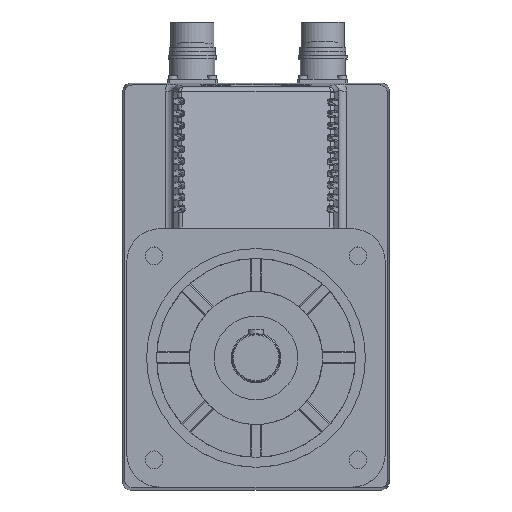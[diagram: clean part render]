
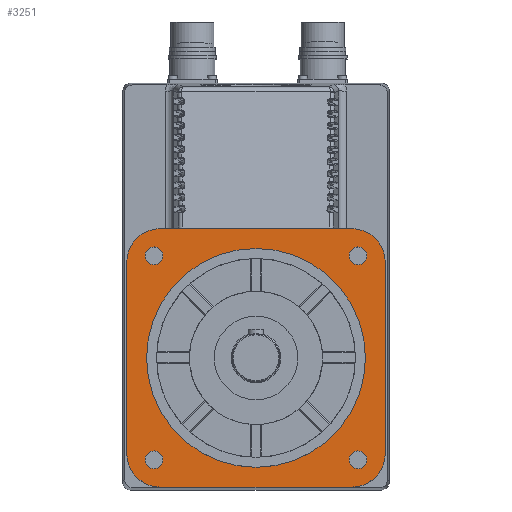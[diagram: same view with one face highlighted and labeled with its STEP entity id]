
A CAD part, top view. The second image highlights one B-rep face of the part: STEP entity #3251.
In plain terms, the highlighted planar face has unit normal (0, 0, 1).
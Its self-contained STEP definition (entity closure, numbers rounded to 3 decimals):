
#3251 = ADVANCED_FACE( '', ( #9575, #9576, #9577, #9578, #9579, #9580 ), #9581, .F. );
#9575 = FACE_OUTER_BOUND( '', #19198, .T. );
#9576 = FACE_BOUND( '', #19199, .T. );
#9577 = FACE_BOUND( '', #19200, .T. );
#9578 = FACE_BOUND( '', #19201, .T. );
#9579 = FACE_BOUND( '', #19202, .T. );
#9580 = FACE_BOUND( '', #19203, .T. );
#9581 = PLANE( '', #19204 );
#19198 = EDGE_LOOP( '', ( #37737, #37738, #37739, #37740, #37741, #37742, #37743, #37744 ) );
#19199 = EDGE_LOOP( '', ( #37745 ) );
#19200 = EDGE_LOOP( '', ( #37746 ) );
#19201 = EDGE_LOOP( '', ( #37747 ) );
#19202 = EDGE_LOOP( '', ( #37748 ) );
#19203 = EDGE_LOOP( '', ( #37749 ) );
#19204 = AXIS2_PLACEMENT_3D( '', #37750, #37751, #37752 );
#37737 = ORIENTED_EDGE( '', *, *, #58411, .F. );
#37738 = ORIENTED_EDGE( '', *, *, #58412, .F. );
#37739 = ORIENTED_EDGE( '', *, *, #58300, .F. );
#37740 = ORIENTED_EDGE( '', *, *, #58413, .F. );
#37741 = ORIENTED_EDGE( '', *, *, #58414, .F. );
#37742 = ORIENTED_EDGE( '', *, *, #58415, .F. );
#37743 = ORIENTED_EDGE( '', *, *, #58416, .F. );
#37744 = ORIENTED_EDGE( '', *, *, #58417, .F. );
#37745 = ORIENTED_EDGE( '', *, *, #58418, .T. );
#37746 = ORIENTED_EDGE( '', *, *, #58419, .T. );
#37747 = ORIENTED_EDGE( '', *, *, #58420, .T. );
#37748 = ORIENTED_EDGE( '', *, *, #58421, .T. );
#37749 = ORIENTED_EDGE( '', *, *, #58422, .T. );
#37750 = CARTESIAN_POINT( '', ( 112.271, 221.197, 229.4 ) );
#37751 = DIRECTION( '', ( 0., 0., -1. ) );
#37752 = DIRECTION( '', ( 0., -1., 0. ) );
#58300 = EDGE_CURVE( '', #66018, #66020, #66021, .T. );
#58411 = EDGE_CURVE( '', #66211, #66212, #66213, .T. );
#58412 = EDGE_CURVE( '', #66020, #66211, #66214, .T. );
#58413 = EDGE_CURVE( '', #66215, #66018, #66216, .T. );
#58414 = EDGE_CURVE( '', #66217, #66215, #66218, .T. );
#58415 = EDGE_CURVE( '', #66219, #66217, #66220, .T. );
#58416 = EDGE_CURVE( '', #66221, #66219, #66222, .T. );
#58417 = EDGE_CURVE( '', #66212, #66221, #66223, .T. );
#58418 = EDGE_CURVE( '', #66224, #66224, #66225, .T. );
#58419 = EDGE_CURVE( '', #66226, #66226, #66227, .T. );
#58420 = EDGE_CURVE( '', #66228, #66228, #66229, .T. );
#58421 = EDGE_CURVE( '', #66230, #66230, #66231, .T. );
#58422 = EDGE_CURVE( '', #66232, #66232, #66233, .T. );
#66018 = VERTEX_POINT( '', #76926 );
#66020 = VERTEX_POINT( '', #76929 );
#66021 = CIRCLE( '', #76930, 17. );
#66211 = VERTEX_POINT( '', #77567 );
#66212 = VERTEX_POINT( '', #77568 );
#66213 = CIRCLE( '', #77569, 17. );
#66214 = LINE( '', #77570, #77571 );
#66215 = VERTEX_POINT( '', #77572 );
#66216 = LINE( '', #77573, #77574 );
#66217 = VERTEX_POINT( '', #77575 );
#66218 = CIRCLE( '', #77576, 17. );
#66219 = VERTEX_POINT( '', #77577 );
#66220 = LINE( '', #77578, #77579 );
#66221 = VERTEX_POINT( '', #77580 );
#66222 = CIRCLE( '', #77581, 17. );
#66223 = LINE( '', #77582, #77583 );
#66224 = VERTEX_POINT( '', #77584 );
#66225 = CIRCLE( '', #77585, 55. );
#66226 = VERTEX_POINT( '', #77586 );
#66227 = CIRCLE( '', #77587, 4.5 );
#66228 = VERTEX_POINT( '', #77588 );
#66229 = CIRCLE( '', #77589, 4.5 );
#66230 = VERTEX_POINT( '', #77590 );
#66231 = CIRCLE( '', #77591, 4.5 );
#66232 = VERTEX_POINT( '', #77592 );
#66233 = CIRCLE( '', #77593, 4.5 );
#76926 = CARTESIAN_POINT( '', ( 112.271, 108.197, 229.4 ) );
#76929 = CARTESIAN_POINT( '', ( 95.271, 125.197, 229.4 ) );
#76930 = AXIS2_PLACEMENT_3D( '', #100146, #100147, #100148 );
#77567 = CARTESIAN_POINT( '', ( 95.271, 221.197, 229.4 ) );
#77568 = CARTESIAN_POINT( '', ( 112.271, 238.197, 229.4 ) );
#77569 = AXIS2_PLACEMENT_3D( '', #100286, #100287, #100288 );
#77570 = CARTESIAN_POINT( '', ( 95.271, 125.197, 229.4 ) );
#77571 = VECTOR( '', #100289, 1000. );
#77572 = CARTESIAN_POINT( '', ( 208.271, 108.197, 229.4 ) );
#77573 = CARTESIAN_POINT( '', ( 208.271, 108.197, 229.4 ) );
#77574 = VECTOR( '', #100290, 1000. );
#77575 = CARTESIAN_POINT( '', ( 225.271, 125.197, 229.4 ) );
#77576 = AXIS2_PLACEMENT_3D( '', #100291, #100292, #100293 );
#77577 = CARTESIAN_POINT( '', ( 225.271, 221.197, 229.4 ) );
#77578 = CARTESIAN_POINT( '', ( 225.271, 221.197, 229.4 ) );
#77579 = VECTOR( '', #100294, 1000. );
#77580 = CARTESIAN_POINT( '', ( 208.271, 238.197, 229.4 ) );
#77581 = AXIS2_PLACEMENT_3D( '', #100295, #100296, #100297 );
#77582 = CARTESIAN_POINT( '', ( 112.271, 238.197, 229.4 ) );
#77583 = VECTOR( '', #100298, 1000. );
#77584 = CARTESIAN_POINT( '', ( 160.271, 118.197, 229.4 ) );
#77585 = AXIS2_PLACEMENT_3D( '', #100299, #100300, #100301 );
#77586 = CARTESIAN_POINT( '', ( 109.006, 219.962, 229.4 ) );
#77587 = AXIS2_PLACEMENT_3D( '', #100302, #100303, #100304 );
#77588 = CARTESIAN_POINT( '', ( 211.536, 219.962, 229.4 ) );
#77589 = AXIS2_PLACEMENT_3D( '', #100305, #100306, #100307 );
#77590 = CARTESIAN_POINT( '', ( 211.536, 117.432, 229.4 ) );
#77591 = AXIS2_PLACEMENT_3D( '', #100308, #100309, #100310 );
#77592 = CARTESIAN_POINT( '', ( 109.006, 117.432, 229.4 ) );
#77593 = AXIS2_PLACEMENT_3D( '', #100311, #100312, #100313 );
#100146 = CARTESIAN_POINT( '', ( 112.271, 125.197, 229.4 ) );
#100147 = DIRECTION( '', ( 0., 0., -1. ) );
#100148 = DIRECTION( '', ( 0., 1., 0. ) );
#100286 = CARTESIAN_POINT( '', ( 112.271, 221.197, 229.4 ) );
#100287 = DIRECTION( '', ( 0., 0., -1. ) );
#100288 = DIRECTION( '', ( 0., -1., 0. ) );
#100289 = DIRECTION( '', ( 0., 1., 0. ) );
#100290 = DIRECTION( '', ( -1., 0., 0. ) );
#100291 = CARTESIAN_POINT( '', ( 208.271, 125.197, 229.4 ) );
#100292 = DIRECTION( '', ( 0., 0., -1. ) );
#100293 = DIRECTION( '', ( 0., 1., 0. ) );
#100294 = DIRECTION( '', ( 0., -1., 0. ) );
#100295 = CARTESIAN_POINT( '', ( 208.271, 221.197, 229.4 ) );
#100296 = DIRECTION( '', ( 0., 0., -1. ) );
#100297 = DIRECTION( '', ( 0., -1., 0. ) );
#100298 = DIRECTION( '', ( 1., 0., 0. ) );
#100299 = CARTESIAN_POINT( '', ( 160.271, 173.197, 229.4 ) );
#100300 = DIRECTION( '', ( 0., 0., -1. ) );
#100301 = DIRECTION( '', ( 0., -1., 0. ) );
#100302 = CARTESIAN_POINT( '', ( 109.006, 224.462, 229.4 ) );
#100303 = DIRECTION( '', ( 0., 0., -1. ) );
#100304 = DIRECTION( '', ( 0., -1., 0. ) );
#100305 = CARTESIAN_POINT( '', ( 211.536, 224.462, 229.4 ) );
#100306 = DIRECTION( '', ( 0., 0., -1. ) );
#100307 = DIRECTION( '', ( 0., -1., 0. ) );
#100308 = CARTESIAN_POINT( '', ( 211.536, 121.932, 229.4 ) );
#100309 = DIRECTION( '', ( 0., 0., -1. ) );
#100310 = DIRECTION( '', ( 0., -1., 0. ) );
#100311 = CARTESIAN_POINT( '', ( 109.006, 121.932, 229.4 ) );
#100312 = DIRECTION( '', ( 0., 0., -1. ) );
#100313 = DIRECTION( '', ( 0., -1., 0. ) );
